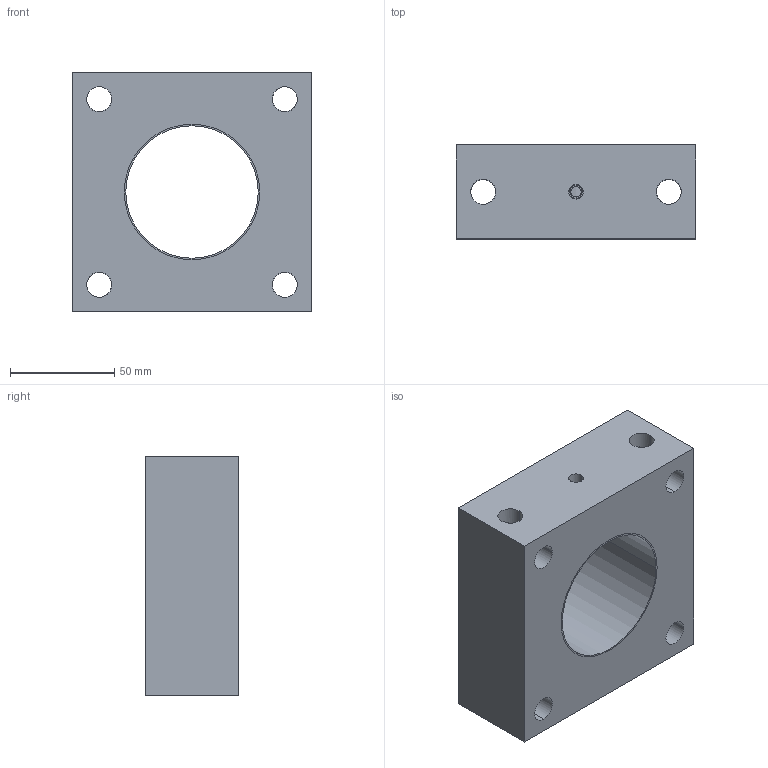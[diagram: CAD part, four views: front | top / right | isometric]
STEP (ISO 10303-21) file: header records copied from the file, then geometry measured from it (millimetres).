
FILE_DESCRIPTION((''),'2;1');
FILE_NAME('MF-652','2011-08-19T',('chad.steele'),(''),'PRO/ENGINEER BY PARAMETRIC TECHNOLOGY CORPORATION, 2010040','PRO/ENGINEER BY PARAMETRIC TECHNOLOGY CORPORATION, 2010040','');
FILE_SCHEMA(('CONFIG_CONTROL_DESIGN'));
Length unit declared in the file: millimetre
Products named in the file (1): MF-652
Bounding box: 115 x 45 x 115 mm (x, y, z)
Volume: 410062.8 mm3; surface area: 71442.1 mm2
Topology: 1 solids, 3 shells, 45 faces, 118 edges, 68 vertices
Faces by surface type: cylinder 38, plane 7
Entity records: 1727 total; most frequent: CARTESIAN_POINT 570, ORIENTED_EDGE 228, DIRECTION 222, EDGE_CURVE 118, AXIS2_PLACEMENT_3D 86, VERTEX_POINT 68, EDGE_LOOP 62, VECTOR 50
